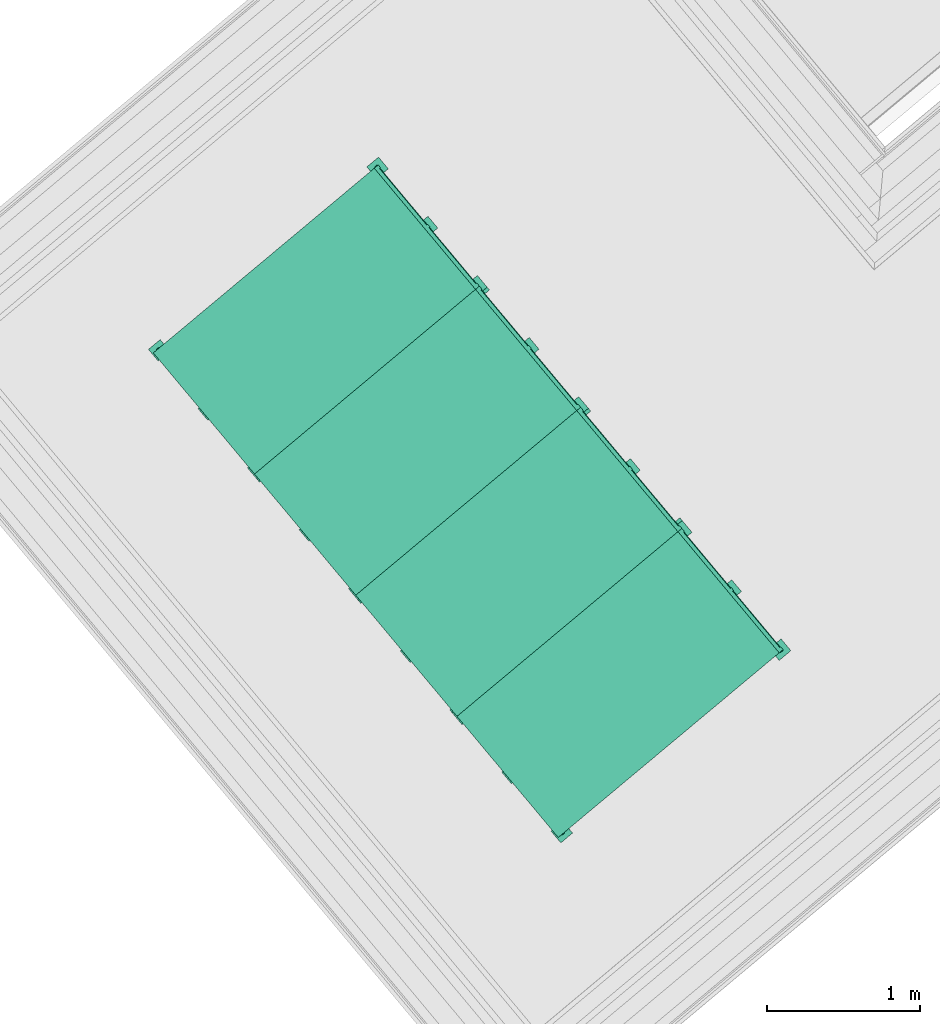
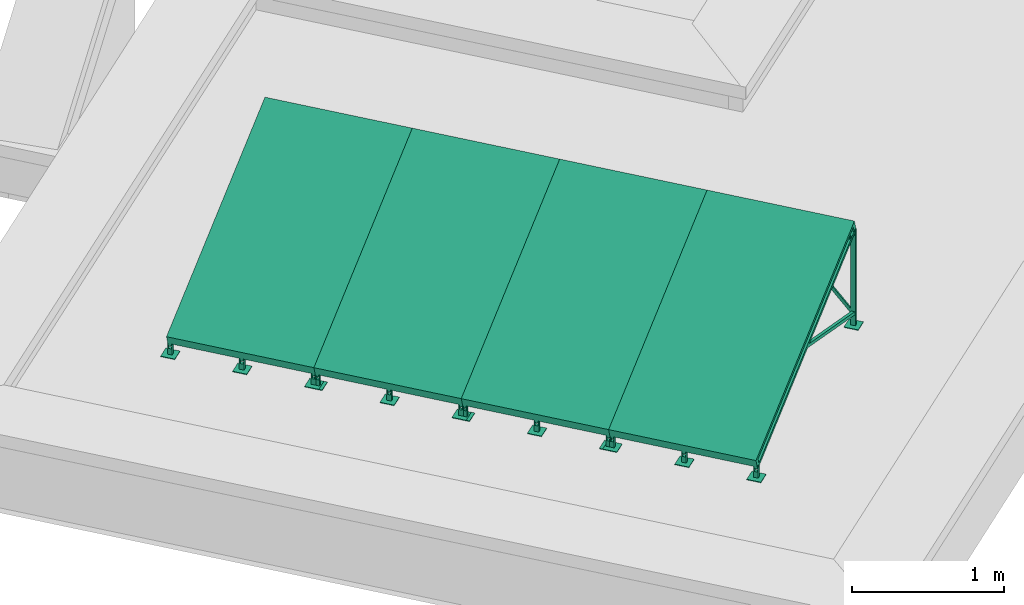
# One storey, part 15 of 15: 4 solar devices.
"""IFC4 building model written with IfcOpenShell, lengths in metres."""

from ifc_helpers import new_model, entity, si_unit, converted_unit, derived_unit, direction, frame, origin_with_axes, place, context, subcontext, project, spatial, polygons, source, transform, mapped, type_object, element, save


model = new_model("IFC4")

# Units and contexts
model_context = context("Model", 3, precision=1e-05, world=origin_with_axes(), true_north=direction((0.0, 1.0)))
body_context = subcontext(model_context, "Body", "Model", "MODEL_VIEW")
ifc_project = project(units=[si_unit("LENGTHUNIT", "METRE"), si_unit("AREAUNIT", "SQUARE_METRE"), si_unit("VOLUMEUNIT", "CUBIC_METRE"), converted_unit("PLANEANGLEUNIT", "DEGREE", entity("IfcPlaneAngleMeasure", 0.0174532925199), si_unit("PLANEANGLEUNIT", "RADIAN"), dimensions=[0, 0, 0, 0, 0, 0, 0]), converted_unit("TIMEUNIT", "Year", entity("IfcTimeMeasure", 31556926.0), si_unit("TIMEUNIT", "SECOND"), dimensions=[0, 0, 1, 0, 0, 0, 0]), si_unit("MASSUNIT", "GRAM", prefix="KILO"), si_unit("THERMODYNAMICTEMPERATUREUNIT", "DEGREE_CELSIUS"), si_unit("LUMINOUSINTENSITYUNIT", "LUMEN"), si_unit("ENERGYUNIT", "JOULE", prefix="MEGA"), derived_unit("THERMALCONDUCTANCEUNIT", [(si_unit("POWERUNIT", "WATT"), 1), (si_unit("LENGTHUNIT", "METRE"), -1), (si_unit("THERMODYNAMICTEMPERATUREUNIT", "KELVIN"), -1)]), derived_unit("SPECIFICHEATCAPACITYUNIT", [(si_unit("ENERGYUNIT", "JOULE"), 1), (si_unit("MASSUNIT", "GRAM", prefix="KILO"), -1), (si_unit("THERMODYNAMICTEMPERATUREUNIT", "KELVIN"), -1)]), derived_unit("MASSDENSITYUNIT", [(si_unit("MASSUNIT", "GRAM", prefix="KILO"), 1), (si_unit("VOLUMEUNIT", "CUBIC_METRE"), -1)])], contexts=[model_context])

# Site, building, storey
site_placement = place(None, frame((-0.00153261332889, -0.00661245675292, 0.0), z_axis=(0.0, 0.0, 1.0), x_axis=(1.0, 0.0, 0.0)))
site = spatial("IfcSite", under=ifc_project, at=site_placement, Name="Site", CompositionType="ELEMENT")
building_placement = place(site_placement, origin_with_axes())
building = spatial("IfcBuilding", under=site, at=building_placement, Name="Building", CompositionType="ELEMENT")
storey_placement = place(building_placement, frame((0.0, 0.0, 11.84), z_axis=(0.0, 0.0, 1.0), x_axis=(1.0, 0.0, 0.0)))
storey = spatial("IfcBuildingStorey", under=building, at=storey_placement, Name="DA", CompositionType="ELEMENT", Elevation=11.84)

# Solar devices
solar_device_type = type_object("IfcSolarDeviceType", Name="Flach-Sonnenkollektor 25", PredefinedType="NOTDEFINED")
shared_shape = source(origin_with_axes(), body_context, "Body", "Tessellation", [
    polygons([(0.0, -0.00338055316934, 0.0951720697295), (0.0, 0.0271594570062, 0.106287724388), (1.035, 0.0271594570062, 0.106287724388), (1.035, -0.00338055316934, 0.0951720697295), (0.0, -0.019797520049, 0.140277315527), (0.0, 0.0107424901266, 0.151392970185), (1.035, 0.0107424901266, 0.151392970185), (1.035, -0.019797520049, 0.140277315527)], [[[1, 2, 3, 4]], [[1, 5, 6, 2]], [[2, 6, 7, 3]], [[4, 3, 7, 8]], [[5, 1, 4, 8]], [[6, 5, 8, 7]]], closed=True),
    polygons([(0.0, 1.85392191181, 0.771174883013), (0.0, 1.88446192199, 0.782290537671), (1.035, 1.88446192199, 0.782290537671), (1.035, 1.85392191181, 0.771174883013), (0.0, 1.83750494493, 0.81628012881), (0.0, 1.86804495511, 0.827395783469), (1.035, 1.86804495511, 0.827395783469), (1.035, 1.83750494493, 0.81628012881)], [[[1, 2, 3, 4]], [[1, 5, 6, 2]], [[2, 6, 7, 3]], [[4, 3, 7, 8]], [[5, 1, 4, 8]], [[6, 5, 8, 7]]], closed=True),
    polygons([(1.0025, 1.86804495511, 0.827395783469), (1.035, 1.86804495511, 0.827395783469), (1.035, -0.019797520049, 0.140277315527), (0.0, -0.019797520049, 0.140277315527), (0.0, 1.86804495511, 0.827395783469), (0.0325, 1.86804495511, 0.827395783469), (1.0025, 1.83750494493, 0.81628012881), (0.0325, 1.83750494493, 0.81628012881), (0.0325, 0.0107424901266, 0.151392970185), (1.0025, 0.0107424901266, 0.151392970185), (0.0, 1.85915243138, 0.851827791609), (1.035, 1.85915243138, 0.851827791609), (1.035, -0.0286900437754, 0.164709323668), (0.0, -0.0286900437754, 0.164709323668), (1.0025, 1.85392191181, 0.771174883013), (0.0325, 1.85392191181, 0.771174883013), (0.0325, 0.0271594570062, 0.106287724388), (1.0025, 0.0271594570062, 0.106287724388), (0.07, 0.0370884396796, 0.1886507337), (0.07, 1.79337394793, 0.827886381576), (0.965, 1.79337394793, 0.827886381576), (0.965, 0.0370884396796, 0.1886507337), (0.07, 0.0535054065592, 0.143545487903), (0.07, 1.80979091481, 0.782781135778), (0.965, 1.80979091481, 0.782781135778), (0.965, 0.0535054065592, 0.143545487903)], [[[1, 2, 3, 4, 5, 6], [7, 8, 9, 10]], [[1, 6, 5, 11, 12, 2]], [[12, 13, 3, 2]], [[13, 14, 4, 3]], [[11, 5, 4, 14]], [[7, 15, 16, 8]], [[8, 16, 17, 9]], [[18, 10, 9, 17]], [[15, 7, 10, 18]], [[13, 12, 11, 14], [19, 20, 21, 22]], [[16, 15, 18, 17]], [[20, 19, 23, 24]], [[21, 20, 24, 25]], [[22, 21, 25, 26]], [[19, 22, 26, 23]], [[25, 24, 23, 26]]], closed=True),
    polygons([(0.07, 0.0387985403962, 0.183952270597), (0.965, 0.0387985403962, 0.183952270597), (0.965, 0.0370884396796, 0.1886507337), (0.07, 0.0370884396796, 0.1886507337), (0.07, 1.79508404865, 0.823187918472), (0.965, 1.79508404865, 0.823187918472), (0.965, 1.79337394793, 0.827886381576), (0.07, 1.79337394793, 0.827886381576)], [[[1, 2, 3, 4]], [[1, 5, 6, 2]], [[2, 6, 7, 3]], [[4, 3, 7, 8]], [[5, 1, 4, 8]], [[6, 5, 8, 7]]], closed=True),
    polygons([(0.0325, 1.77004902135, 0.776346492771), (0.0325, 1.76959832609, 0.766023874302), (0.0325, 1.77657882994, 0.758405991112), (0.0325, 1.78690144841, 0.757955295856), (0.0325, 1.7945193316, 0.764935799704), (0.0325, 1.79497002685, 0.775258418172), (0.0325, 1.787989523, 0.782876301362), (0.0325, 1.77766690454, 0.783326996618), (0.0, 1.77004902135, 0.776346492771), (0.0, 1.76959832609, 0.766023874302), (0.0, 1.77657882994, 0.758405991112), (0.0, 1.78690144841, 0.757955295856), (0.0, 1.7945193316, 0.764935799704), (0.0, 1.79497002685, 0.775258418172), (0.0, 1.787989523, 0.782876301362), (0.0, 1.77766690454, 0.783326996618)], [[[1, 2, 3, 4, 5, 6, 7, 8]], [[2, 1, 9, 10]], [[3, 2, 10, 11]], [[4, 3, 11, 12]], [[5, 4, 12, 13]], [[6, 5, 13, 14]], [[7, 6, 14, 15]], [[8, 7, 15, 16]], [[1, 8, 16, 9]], [[9, 16, 15, 14, 13, 12, 11, 10]]], closed=True),
    polygons([(1.0025, 1.77004902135, 0.776346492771), (1.0025, 1.77766690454, 0.783326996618), (1.0025, 1.787989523, 0.782876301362), (1.0025, 1.79497002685, 0.775258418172), (1.0025, 1.7945193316, 0.764935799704), (1.0025, 1.78690144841, 0.757955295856), (1.0025, 1.77657882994, 0.758405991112), (1.0025, 1.76959832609, 0.766023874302), (1.035, 1.77004902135, 0.776346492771), (1.035, 1.77766690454, 0.783326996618), (1.035, 1.787989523, 0.782876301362), (1.035, 1.79497002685, 0.775258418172), (1.035, 1.7945193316, 0.764935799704), (1.035, 1.78690144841, 0.757955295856), (1.035, 1.77657882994, 0.758405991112), (1.035, 1.76959832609, 0.766023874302)], [[[1, 2, 3, 4, 5, 6, 7, 8]], [[1, 9, 10, 2]], [[2, 10, 11, 3]], [[3, 11, 12, 4]], [[4, 12, 13, 5]], [[5, 13, 14, 6]], [[6, 14, 15, 7]], [[7, 15, 16, 8]], [[8, 16, 9, 1]], [[9, 16, 15, 14, 13, 12, 11, 10]]], closed=True),
    polygons([(0.07, 0.0541894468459, 0.141666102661), (0.965, 0.0541894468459, 0.141666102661), (0.965, 0.048033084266, 0.158580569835), (0.07, 0.048033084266, 0.158580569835), (0.07, 1.81047495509, 0.780901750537), (0.965, 1.81047495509, 0.780901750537), (0.14, 0.119967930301, 0.165607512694), (0.895, 0.119967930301, 0.165607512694), (0.895, 1.74469647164, 0.756960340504), (0.14, 1.74469647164, 0.756960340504), (0.965, 1.80431859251, 0.797816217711), (0.07, 1.80431859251, 0.797816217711), (0.14, 0.113811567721, 0.182521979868), (0.14, 1.73854010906, 0.773874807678), (0.895, 1.73854010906, 0.773874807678), (0.895, 0.113811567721, 0.182521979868)], [[[1, 2, 3, 4]], [[1, 5, 6, 2], [7, 8, 9, 10]], [[2, 6, 11, 3]], [[4, 3, 11, 12], [13, 14, 15, 16]], [[5, 1, 4, 12]], [[6, 5, 12, 11]], [[8, 7, 13, 16]], [[9, 8, 16, 15]], [[10, 9, 15, 14]], [[7, 10, 14, 13]]], closed=True),
    polygons([(0.14, 0.118257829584, 0.170305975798), (0.14, 1.74298637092, 0.761658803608), (0.895, 1.74298637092, 0.761658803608), (0.895, 0.118257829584, 0.170305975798)], [[[1, 2, 3, 4]]], closed=False),
    polygons([(0.0, 1.89267040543, 0.759737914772), (0.024, 1.89267040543, 0.759737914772), (0.024, 0.00482793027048, 0.0726194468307), (0.0, 0.00482793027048, 0.0726194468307), (0.0, 1.88446192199, 0.782290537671), (0.024, 1.88446192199, 0.782290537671), (0.024, -0.00338055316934, 0.0951720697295), (0.0, -0.00338055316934, 0.0951720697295)], [[[1, 2, 3, 4]], [[1, 5, 6, 2]], [[2, 6, 7, 3]], [[4, 3, 7, 8]], [[5, 1, 4, 8]], [[6, 5, 8, 7]]], closed=True),
    polygons([(0.5055, 1.89267040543, 0.759737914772), (0.5295, 1.89267040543, 0.759737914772), (0.5295, 0.00482793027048, 0.0726194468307), (0.5055, 0.00482793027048, 0.0726194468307), (0.5055, 1.88446192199, 0.782290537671), (0.5295, 1.88446192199, 0.782290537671), (0.5295, -0.00338055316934, 0.0951720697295), (0.5055, -0.00338055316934, 0.0951720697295)], [[[1, 2, 3, 4]], [[1, 5, 6, 2]], [[2, 6, 7, 3]], [[4, 3, 7, 8]], [[5, 1, 4, 8]], [[6, 5, 8, 7]]], closed=True),
    polygons([(1.011, 1.89267040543, 0.759737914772), (1.035, 1.89267040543, 0.759737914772), (1.035, 0.00482793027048, 0.0726194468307), (1.011, 0.00482793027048, 0.0726194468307), (1.011, 1.88446192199, 0.782290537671), (1.035, 1.88446192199, 0.782290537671), (1.035, -0.00338055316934, 0.0951720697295), (1.011, -0.00338055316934, 0.0951720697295)], [[[1, 2, 3, 4]], [[1, 5, 6, 2]], [[2, 6, 7, 3]], [[4, 3, 7, 8]], [[5, 1, 4, 8]], [[6, 5, 8, 7]]], closed=True),
    polygons([(0.0, 0.024, 0.052), (0.024, 0.024, 0.052), (0.024, 0.024, 0.088), (0.029, 0.024, 0.088), (0.029, 0.024, 0.005), (-0.005, 0.024, 0.005), (-0.005, 0.024, 0.088), (0.0, 0.024, 0.088), (0.0, 0.0, 0.052), (0.024, 0.0, 0.052), (0.024, 0.0204852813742, 0.0964852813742), (0.024, 0.0, 0.088), (0.024, 0.00351471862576, 0.0964852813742), (0.024, 0.012, 0.1), (0.029, 0.0204852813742, 0.0964852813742), (0.029, 0.012, 0.1), (0.029, 0.00351471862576, 0.0964852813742), (0.029, 0.0, 0.088), (0.029, 0.0, 0.005), (-0.005, 0.0, 0.005), (-0.005, 0.0204852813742, 0.0964852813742), (-0.005, 0.0, 0.088), (-0.005, 0.00351471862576, 0.0964852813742), (-0.005, 0.012, 0.1), (0.0, 0.0204852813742, 0.0964852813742), (0.0, 0.012, 0.1), (0.0, 0.00351471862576, 0.0964852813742), (0.0, 0.0, 0.088)], [[[1, 2, 3, 4, 5, 6, 7, 8]], [[2, 1, 9, 10]], [[11, 3, 2, 10, 12, 13, 14]], [[3, 11, 15, 4]], [[16, 17, 18, 19, 5, 4, 15]], [[6, 5, 19, 20]], [[21, 7, 6, 20, 22, 23, 24]], [[25, 8, 7, 21]], [[1, 8, 25, 26, 27, 28, 9]], [[9, 28, 22, 20, 19, 18, 12, 10]], [[13, 12, 18, 17]], [[14, 13, 17, 16]], [[11, 14, 16, 15]], [[28, 27, 23, 22]], [[27, 26, 24, 23]], [[26, 25, 21, 24]]], closed=True),
    polygons([(-0.038, -0.038, 0.0), (0.062, -0.038, 0.0), (0.062, -0.038, 0.005), (-0.038, -0.038, 0.005), (-0.038, 0.062, 0.0), (0.062, 0.062, 0.0), (0.062, 0.062, 0.005), (-0.038, 0.062, 0.005)], [[[1, 2, 3, 4]], [[1, 5, 6, 2]], [[2, 6, 7, 3]], [[4, 3, 7, 8]], [[5, 1, 4, 8]], [[6, 5, 8, 7]]], closed=True),
    polygons([(0.5055, 0.024, 0.052), (0.5295, 0.024, 0.052), (0.5295, 0.024, 0.088), (0.5345, 0.024, 0.088), (0.5345, 0.024, 0.005), (0.5005, 0.024, 0.005), (0.5005, 0.024, 0.088), (0.5055, 0.024, 0.088), (0.5055, 0.0, 0.052), (0.5295, 0.0, 0.052), (0.5295, 0.0204852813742, 0.0964852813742), (0.5295, 0.0, 0.088), (0.5295, 0.00351471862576, 0.0964852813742), (0.5295, 0.012, 0.1), (0.5345, 0.0204852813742, 0.0964852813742), (0.5345, 0.012, 0.1), (0.5345, 0.00351471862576, 0.0964852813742), (0.5345, 0.0, 0.088), (0.5345, 0.0, 0.005), (0.5005, 0.0, 0.005), (0.5005, 0.0204852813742, 0.0964852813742), (0.5005, 0.0, 0.088), (0.5005, 0.00351471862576, 0.0964852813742), (0.5005, 0.012, 0.1), (0.5055, 0.0204852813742, 0.0964852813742), (0.5055, 0.012, 0.1), (0.5055, 0.00351471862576, 0.0964852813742), (0.5055, 0.0, 0.088)], [[[1, 2, 3, 4, 5, 6, 7, 8]], [[2, 1, 9, 10]], [[11, 3, 2, 10, 12, 13, 14]], [[3, 11, 15, 4]], [[16, 17, 18, 19, 5, 4, 15]], [[6, 5, 19, 20]], [[21, 7, 6, 20, 22, 23, 24]], [[25, 8, 7, 21]], [[1, 8, 25, 26, 27, 28, 9]], [[9, 28, 22, 20, 19, 18, 12, 10]], [[13, 12, 18, 17]], [[14, 13, 17, 16]], [[11, 14, 16, 15]], [[28, 27, 23, 22]], [[27, 26, 24, 23]], [[26, 25, 21, 24]]], closed=True),
    polygons([(0.4675, -0.038, 0.0), (0.5675, -0.038, 0.0), (0.5675, -0.038, 0.005), (0.4675, -0.038, 0.005), (0.4675, 0.062, 0.0), (0.5675, 0.062, 0.0), (0.5675, 0.062, 0.005), (0.4675, 0.062, 0.005)], [[[1, 2, 3, 4]], [[1, 5, 6, 2]], [[2, 6, 7, 3]], [[4, 3, 7, 8]], [[5, 1, 4, 8]], [[6, 5, 8, 7]]], closed=True),
    polygons([(1.011, 0.024, 0.052), (1.035, 0.024, 0.052), (1.035, 0.024, 0.088), (1.04, 0.024, 0.088), (1.04, 0.024, 0.005), (1.006, 0.024, 0.005), (1.006, 0.024, 0.088), (1.011, 0.024, 0.088), (1.011, 0.0, 0.052), (1.035, 0.0, 0.052), (1.035, 0.0204852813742, 0.0964852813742), (1.035, 0.0, 0.088), (1.035, 0.00351471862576, 0.0964852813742), (1.035, 0.012, 0.1), (1.04, 0.0204852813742, 0.0964852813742), (1.04, 0.012, 0.1), (1.04, 0.00351471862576, 0.0964852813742), (1.04, 0.0, 0.088), (1.04, 0.0, 0.005), (1.006, 0.0, 0.005), (1.006, 0.0204852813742, 0.0964852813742), (1.006, 0.0, 0.088), (1.006, 0.00351471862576, 0.0964852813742), (1.006, 0.012, 0.1), (1.011, 0.0204852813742, 0.0964852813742), (1.011, 0.012, 0.1), (1.011, 0.00351471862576, 0.0964852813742), (1.011, 0.0, 0.088)], [[[1, 2, 3, 4, 5, 6, 7, 8]], [[2, 1, 9, 10]], [[11, 3, 2, 10, 12, 13, 14]], [[3, 11, 15, 4]], [[16, 17, 18, 19, 5, 4, 15]], [[6, 5, 19, 20]], [[21, 7, 6, 20, 22, 23, 24]], [[25, 8, 7, 21]], [[1, 8, 25, 26, 27, 28, 9]], [[9, 28, 22, 20, 19, 18, 12, 10]], [[13, 12, 18, 17]], [[14, 13, 17, 16]], [[11, 14, 16, 15]], [[28, 27, 23, 22]], [[27, 26, 24, 23]], [[26, 25, 21, 24]]], closed=True),
    polygons([(0.973, -0.038, 0.0), (1.073, -0.038, 0.0), (1.073, -0.038, 0.005), (0.973, -0.038, 0.005), (0.973, 0.062, 0.0), (1.073, 0.062, 0.0), (1.073, 0.062, 0.005), (0.973, 0.062, 0.005)], [[[1, 2, 3, 4]], [[1, 5, 6, 2]], [[2, 6, 7, 3]], [[4, 3, 7, 8]], [[5, 1, 4, 8]], [[6, 5, 8, 7]]], closed=True),
    polygons([(0.0, 1.88928985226, 0.730909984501), (0.024, 1.88928985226, 0.730909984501), (0.024, 1.88928985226, 0.766909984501), (0.029, 1.88928985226, 0.766909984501), (0.029, 1.88928985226, 0.005), (-0.005, 1.88928985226, 0.005), (-0.005, 1.88928985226, 0.766909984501), (0.0, 1.88928985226, 0.766909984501), (0.0, 1.86528985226, 0.730909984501), (0.024, 1.86528985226, 0.730909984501), (0.024, 1.88577513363, 0.775395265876), (0.024, 1.86528985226, 0.766909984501), (0.024, 1.86880457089, 0.775395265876), (0.024, 1.87728985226, 0.778909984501), (0.029, 1.88577513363, 0.775395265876), (0.029, 1.87728985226, 0.778909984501), (0.029, 1.86880457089, 0.775395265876), (0.029, 1.86528985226, 0.766909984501), (0.029, 1.86528985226, 0.005), (-0.005, 1.86528985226, 0.005), (-0.005, 1.88577513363, 0.775395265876), (-0.005, 1.86528985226, 0.766909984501), (-0.005, 1.86880457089, 0.775395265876), (-0.005, 1.87728985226, 0.778909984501), (0.0, 1.88577513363, 0.775395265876), (0.0, 1.87728985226, 0.778909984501), (0.0, 1.86880457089, 0.775395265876), (0.0, 1.86528985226, 0.766909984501)], [[[1, 2, 3, 4, 5, 6, 7, 8]], [[2, 1, 9, 10]], [[11, 3, 2, 10, 12, 13, 14]], [[3, 11, 15, 4]], [[16, 17, 18, 19, 5, 4, 15]], [[6, 5, 19, 20]], [[21, 7, 6, 20, 22, 23, 24]], [[25, 8, 7, 21]], [[1, 8, 25, 26, 27, 28, 9]], [[9, 28, 22, 20, 19, 18, 12, 10]], [[13, 12, 18, 17]], [[14, 13, 17, 16]], [[11, 14, 16, 15]], [[28, 27, 23, 22]], [[27, 26, 24, 23]], [[26, 25, 21, 24]]], closed=True),
    polygons([(-0.038, 1.82728985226, 0.0), (0.062, 1.82728985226, 0.0), (0.062, 1.82728985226, 0.005), (-0.038, 1.82728985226, 0.005), (-0.038, 1.92728985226, 0.0), (0.062, 1.92728985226, 0.0), (0.062, 1.92728985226, 0.005), (-0.038, 1.92728985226, 0.005)], [[[1, 2, 3, 4]], [[1, 5, 6, 2]], [[2, 6, 7, 3]], [[4, 3, 7, 8]], [[5, 1, 4, 8]], [[6, 5, 8, 7]]], closed=True),
    polygons([(0.5055, 1.88928985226, 0.730909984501), (0.5295, 1.88928985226, 0.730909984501), (0.5295, 1.88928985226, 0.766909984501), (0.5345, 1.88928985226, 0.766909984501), (0.5345, 1.88928985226, 0.005), (0.5005, 1.88928985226, 0.005), (0.5005, 1.88928985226, 0.766909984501), (0.5055, 1.88928985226, 0.766909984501), (0.5055, 1.86528985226, 0.730909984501), (0.5295, 1.86528985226, 0.730909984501), (0.5295, 1.88577513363, 0.775395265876), (0.5295, 1.86528985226, 0.766909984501), (0.5295, 1.86880457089, 0.775395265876), (0.5295, 1.87728985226, 0.778909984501), (0.5345, 1.88577513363, 0.775395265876), (0.5345, 1.87728985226, 0.778909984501), (0.5345, 1.86880457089, 0.775395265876), (0.5345, 1.86528985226, 0.766909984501), (0.5345, 1.86528985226, 0.005), (0.5005, 1.86528985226, 0.005), (0.5005, 1.88577513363, 0.775395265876), (0.5005, 1.86528985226, 0.766909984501), (0.5005, 1.86880457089, 0.775395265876), (0.5005, 1.87728985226, 0.778909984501), (0.5055, 1.88577513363, 0.775395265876), (0.5055, 1.87728985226, 0.778909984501), (0.5055, 1.86880457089, 0.775395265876), (0.5055, 1.86528985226, 0.766909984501)], [[[1, 2, 3, 4, 5, 6, 7, 8]], [[2, 1, 9, 10]], [[11, 3, 2, 10, 12, 13, 14]], [[3, 11, 15, 4]], [[16, 17, 18, 19, 5, 4, 15]], [[6, 5, 19, 20]], [[21, 7, 6, 20, 22, 23, 24]], [[25, 8, 7, 21]], [[1, 8, 25, 26, 27, 28, 9]], [[9, 28, 22, 20, 19, 18, 12, 10]], [[13, 12, 18, 17]], [[14, 13, 17, 16]], [[11, 14, 16, 15]], [[28, 27, 23, 22]], [[27, 26, 24, 23]], [[26, 25, 21, 24]]], closed=True),
    polygons([(0.4675, 1.82728985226, 0.0), (0.5675, 1.82728985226, 0.0), (0.5675, 1.82728985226, 0.005), (0.4675, 1.82728985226, 0.005), (0.4675, 1.92728985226, 0.0), (0.5675, 1.92728985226, 0.0), (0.5675, 1.92728985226, 0.005), (0.4675, 1.92728985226, 0.005)], [[[1, 2, 3, 4]], [[1, 5, 6, 2]], [[2, 6, 7, 3]], [[4, 3, 7, 8]], [[5, 1, 4, 8]], [[6, 5, 8, 7]]], closed=True),
    polygons([(1.011, 1.88928985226, 0.730909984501), (1.035, 1.88928985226, 0.730909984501), (1.035, 1.88928985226, 0.766909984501), (1.04, 1.88928985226, 0.766909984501), (1.04, 1.88928985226, 0.005), (1.006, 1.88928985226, 0.005), (1.006, 1.88928985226, 0.766909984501), (1.011, 1.88928985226, 0.766909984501), (1.011, 1.86528985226, 0.730909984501), (1.035, 1.86528985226, 0.730909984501), (1.035, 1.88577513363, 0.775395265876), (1.035, 1.86528985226, 0.766909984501), (1.035, 1.86880457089, 0.775395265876), (1.035, 1.87728985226, 0.778909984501), (1.04, 1.88577513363, 0.775395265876), (1.04, 1.87728985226, 0.778909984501), (1.04, 1.86880457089, 0.775395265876), (1.04, 1.86528985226, 0.766909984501), (1.04, 1.86528985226, 0.005), (1.006, 1.86528985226, 0.005), (1.006, 1.88577513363, 0.775395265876), (1.006, 1.86528985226, 0.766909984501), (1.006, 1.86880457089, 0.775395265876), (1.006, 1.87728985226, 0.778909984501), (1.011, 1.88577513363, 0.775395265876), (1.011, 1.87728985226, 0.778909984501), (1.011, 1.86880457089, 0.775395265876), (1.011, 1.86528985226, 0.766909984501)], [[[1, 2, 3, 4, 5, 6, 7, 8]], [[2, 1, 9, 10]], [[11, 3, 2, 10, 12, 13, 14]], [[3, 11, 15, 4]], [[16, 17, 18, 19, 5, 4, 15]], [[6, 5, 19, 20]], [[21, 7, 6, 20, 22, 23, 24]], [[25, 8, 7, 21]], [[1, 8, 25, 26, 27, 28, 9]], [[9, 28, 22, 20, 19, 18, 12, 10]], [[13, 12, 18, 17]], [[14, 13, 17, 16]], [[11, 14, 16, 15]], [[28, 27, 23, 22]], [[27, 26, 24, 23]], [[26, 25, 21, 24]]], closed=True),
    polygons([(0.973, 1.82728985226, 0.0), (1.073, 1.82728985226, 0.0), (1.073, 1.82728985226, 0.005), (0.973, 1.82728985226, 0.005), (0.973, 1.92728985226, 0.0), (1.073, 1.92728985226, 0.0), (1.073, 1.92728985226, 0.005), (0.973, 1.92728985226, 0.005)], [[[1, 2, 3, 4]], [[1, 5, 6, 2]], [[2, 6, 7, 3]], [[4, 3, 7, 8]], [[5, 1, 4, 8]], [[6, 5, 8, 7]]], closed=True),
    polygons([(0.024, 1.86528985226, 0.0915975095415), (0.024, 0.961129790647, 0.420684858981), (0.0, 0.961129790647, 0.420684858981), (0.0, 1.86528985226, 0.0915975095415), (0.024, 1.86528985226, 0.117137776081), (0.024, 0.996215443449, 0.433454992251), (0.0, 0.996215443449, 0.433454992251), (0.0, 1.86528985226, 0.117137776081)], [[[1, 2, 3, 4]], [[5, 6, 2, 1]], [[3, 2, 6, 7]], [[4, 3, 7, 8]], [[4, 8, 5, 1]], [[8, 7, 6, 5]]], closed=True),
    polygons([(0.5295, 1.86528985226, 0.0915975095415), (0.5295, 0.961129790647, 0.420684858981), (0.5055, 0.961129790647, 0.420684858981), (0.5055, 1.86528985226, 0.0915975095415), (0.5295, 1.86528985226, 0.117137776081), (0.5295, 0.996215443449, 0.433454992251), (0.5055, 0.996215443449, 0.433454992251), (0.5055, 1.86528985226, 0.117137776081)], [[[1, 2, 3, 4]], [[5, 6, 2, 1]], [[3, 2, 6, 7]], [[4, 3, 7, 8]], [[4, 8, 5, 1]], [[8, 7, 6, 5]]], closed=True),
    polygons([(1.035, 1.86528985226, 0.0915975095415), (1.035, 0.961129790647, 0.420684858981), (1.011, 0.961129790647, 0.420684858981), (1.011, 1.86528985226, 0.0915975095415), (1.035, 1.86528985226, 0.117137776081), (1.035, 0.996215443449, 0.433454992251), (1.011, 0.996215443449, 0.433454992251), (1.011, 1.86528985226, 0.117137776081)], [[[1, 2, 3, 4]], [[5, 6, 2, 1]], [[3, 2, 6, 7]], [[4, 3, 7, 8]], [[4, 8, 5, 1]], [[8, 7, 6, 5]]], closed=True),
    polygons([(0.029, 1.87728985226, 0.101224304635), (0.5005, 1.87728985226, 0.641196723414), (0.5005, 1.87728985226, 0.677685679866), (0.029, 1.87728985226, 0.137713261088), (0.029, 1.88928985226, 0.101224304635), (0.5005, 1.88928985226, 0.641196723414), (0.5005, 1.88928985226, 0.677685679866), (0.029, 1.88928985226, 0.137713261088)], [[[1, 2, 3, 4]], [[5, 6, 2, 1]], [[3, 2, 6, 7]], [[4, 3, 7, 8]], [[4, 8, 5, 1]], [[8, 7, 6, 5]]], closed=True),
    polygons([(0.5005, 1.86528985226, 0.137713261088), (0.029, 1.86528985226, 0.677685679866), (0.029, 1.86528985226, 0.641196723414), (0.5005, 1.86528985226, 0.101224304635), (0.5005, 1.87728985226, 0.137713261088), (0.029, 1.87728985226, 0.677685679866), (0.029, 1.87728985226, 0.641196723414), (0.5005, 1.87728985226, 0.101224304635)], [[[1, 2, 3, 4]], [[5, 6, 2, 1]], [[2, 6, 7, 3]], [[4, 3, 7, 8]], [[1, 4, 8, 5]], [[8, 7, 6, 5]]], closed=True),
    polygons([(0.5345, 1.87728985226, 0.101224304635), (1.006, 1.87728985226, 0.641196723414), (1.006, 1.87728985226, 0.677685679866), (0.5345, 1.87728985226, 0.137713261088), (0.5345, 1.88928985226, 0.101224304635), (1.006, 1.88928985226, 0.641196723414), (1.006, 1.88928985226, 0.677685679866), (0.5345, 1.88928985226, 0.137713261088)], [[[1, 2, 3, 4]], [[5, 6, 2, 1]], [[3, 2, 6, 7]], [[4, 3, 7, 8]], [[4, 8, 5, 1]], [[8, 7, 6, 5]]], closed=True),
    polygons([(1.006, 1.86528985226, 0.137713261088), (0.5345, 1.86528985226, 0.677685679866), (0.5345, 1.86528985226, 0.641196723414), (1.006, 1.86528985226, 0.101224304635), (1.006, 1.87728985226, 0.137713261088), (0.5345, 1.87728985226, 0.677685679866), (0.5345, 1.87728985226, 0.641196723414), (1.006, 1.87728985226, 0.101224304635)], [[[1, 2, 3, 4]], [[5, 6, 2, 1]], [[2, 6, 7, 3]], [[4, 3, 7, 8]], [[1, 4, 8, 5]], [[8, 7, 6, 5]]], closed=True),
])
for number, where, z_axis, x_axis, name in (
    (1, (-5.72119860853, 17.8091184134, 0.4), (0.0, 0.0, 1.0), (0.641209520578, -0.767365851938, 0.0), "Objekt-0010"),
    (2, (-5.05754675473, 17.0148947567, 0.4), (0.0, 0.0, 1.0), (0.641209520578, -0.767365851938, 0.0), "Objekt-0010"),
    (3, (-4.39389490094, 16.2206710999, 0.4), (0.0, 0.0, 1.0), (0.641209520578, -0.767365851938, 0.0), "Objekt-0010"),
    (4, (-3.73024304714, 15.4264474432, 0.4), (0.0, 0.0, 1.0), (0.641209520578, -0.767365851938, 0.0), "Objekt-0010"),
):
    element("IfcSolarDevice", number, at=place(storey_placement, frame(where, z_axis=z_axis, x_axis=x_axis)), inside=storey, type_object=solar_device_type, Name=name, PredefinedType="NOTDEFINED", context=body_context, shape_type="MappedRepresentation", body=[
        mapped(shared_shape, transform((0.0, 0.0, 0.0))),
    ])

save(model, "model.ifc")
